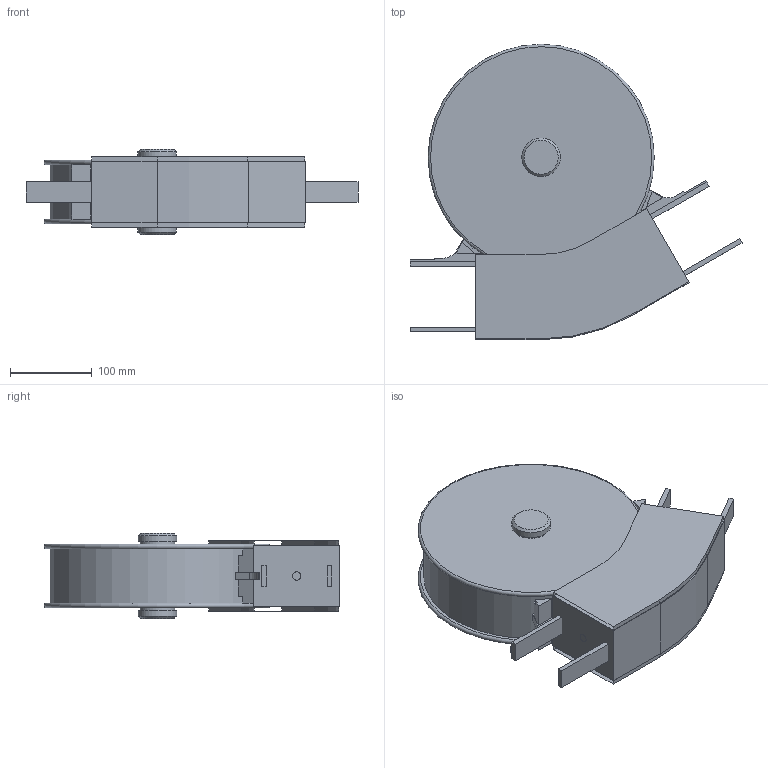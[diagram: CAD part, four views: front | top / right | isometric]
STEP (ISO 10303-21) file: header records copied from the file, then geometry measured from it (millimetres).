
FILE_DESCRIPTION(/* description */ ('Bogenrad 30°'),/* implementation_level */ '2;1');
FILE_NAME(/* name */ 'T:\vdz0\Step Daten Website\modulflex FH-System\Bogenräder\FHBH 30R170 A_44018.stp',/* time_stamp */ '2024-09-03T10:53:47+02:00',/* author */ ('lzb0'),/* organization */ ('modular automation GmbH'),/* preprocessor_version */ 'ST-DEVELOPER v18.1',/* originating_system */ 'Autodesk Inventor 2021',/* authorisation */ '');
FILE_SCHEMA (('AUTOMOTIVE_DESIGN { 1 0 10303 214 3 1 1 }'));
Length unit declared in the file: millimetre
Products named in the file (1): FHBH 30R170 A
Bounding box: 405.06 x 360.5 x 104 mm (x, y, z)
Volume: 6413348.6 mm3; surface area: 467862.6 mm2
Topology: 8 solids, 12 shells, 123 faces, 289 edges, 192 vertices
Faces by surface type: plane 104, cylinder 15, cone 2, torus 2
Full cylindrical faces by diameter (mm): 10 x2, 42 x2, 47 x2, 262 x1
Entity records: 3581 total; most frequent: CARTESIAN_POINT 612, DIRECTION 577, ORIENTED_EDGE 558, EDGE_CURVE 289, LINE 251, VECTOR 251, VERTEX_POINT 192, AXIS2_PLACEMENT_3D 163
